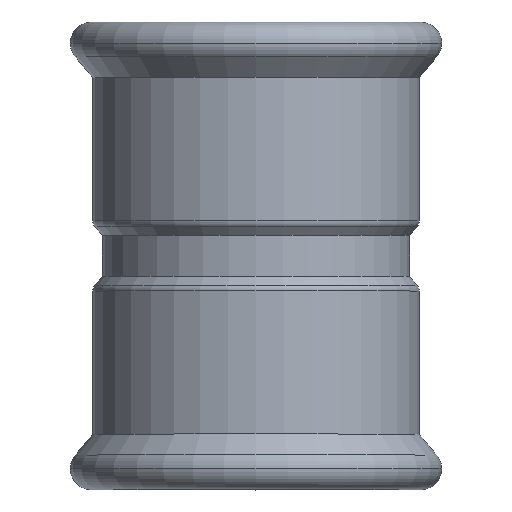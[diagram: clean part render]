
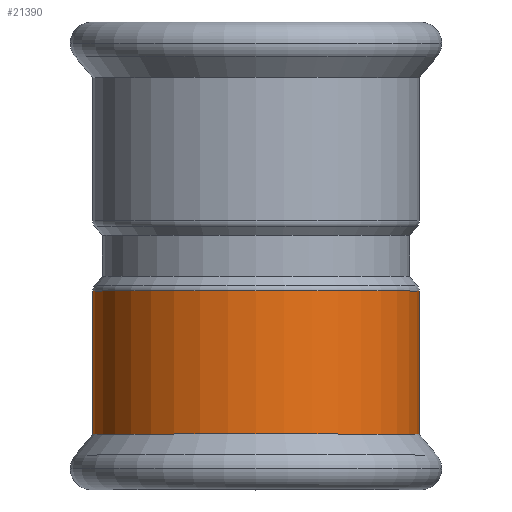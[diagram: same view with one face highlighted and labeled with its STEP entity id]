
A CAD part, top view. The second image highlights one B-rep face of the part: STEP entity #21390.
In plain terms, the highlighted cylindrical face has radius 28.7 mm (diameter 57.4 mm), a partial arc.
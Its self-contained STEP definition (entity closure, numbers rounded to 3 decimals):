
#6980=CARTESIAN_POINT('',(1.644,158.749,0.));
#6990=VERTEX_POINT('',#6980);
#7170=CARTESIAN_POINT('',(59.044,158.749,
0.));
#7180=VERTEX_POINT('',#7170);
#7210=CARTESIAN_POINT('',(30.344,158.749,0.));
#7220=DIRECTION('',(0.,-1.,0.));
#7230=DIRECTION('',(1.,0.,0.));
#7240=AXIS2_PLACEMENT_3D('',#7210,#7220,#7230);
#7250=CIRCLE('',#7240,28.7);
#7310=CARTESIAN_POINT('',(30.344,171.645,0.));
#7320=DIRECTION('',(0.,1.,0.));
#7330=DIRECTION('',(1.,0.,0.));
#7340=AXIS2_PLACEMENT_3D('',#7310,#7320,#7330);
#7350=CYLINDRICAL_SURFACE('',#7340,28.7);
#7360=CARTESIAN_POINT('',(1.644,171.645,
0.));
#7370=DIRECTION('',(0.,1.,0.));
#7380=VECTOR('',#7370,1.);
#7390=LINE('',#7360,#7380);
#7400=CARTESIAN_POINT('',(1.644,183.923,0.));
#7410=VERTEX_POINT('',#7400);
#7420=EDGE_CURVE('',#6990,#7410,#7390,.T.);
#7450=CARTESIAN_POINT('',(59.044,171.645,0.));
#7460=DIRECTION('',(0.,1.,0.));
#7470=VECTOR('',#7460,1.);
#7480=LINE('',#7450,#7470);
#7490=CARTESIAN_POINT('',(59.044,183.923,0.));
#7500=VERTEX_POINT('',#7490);
#7510=EDGE_CURVE('',#7180,#7500,#7480,.T.);
#7530=CARTESIAN_POINT('',(30.344,183.923,0.));
#7540=DIRECTION('',(0.,-1.,0.));
#7550=DIRECTION('',(-1.,0.,0.));
#7560=AXIS2_PLACEMENT_3D('',#7530,#7540,#7550);
#7570=CIRCLE('',#7560,28.7);
#21310=EDGE_CURVE('',#7180,#6990,#7250,.T.);
#21320=ORIENTED_EDGE('',*,*,#21310,.F.);
#21330=ORIENTED_EDGE('',*,*,#7420,.F.);
#21340=EDGE_CURVE('',#7500,#7410,#7570,.T.);
#21350=ORIENTED_EDGE('',*,*,#21340,.T.);
#21360=ORIENTED_EDGE('',*,*,#7510,.T.);
#21370=EDGE_LOOP('',(#21360,#21350,#21330,#21320));
#21380=FACE_OUTER_BOUND('',#21370,.T.);
#21390=ADVANCED_FACE('',(#21380),#7350,.T.);
